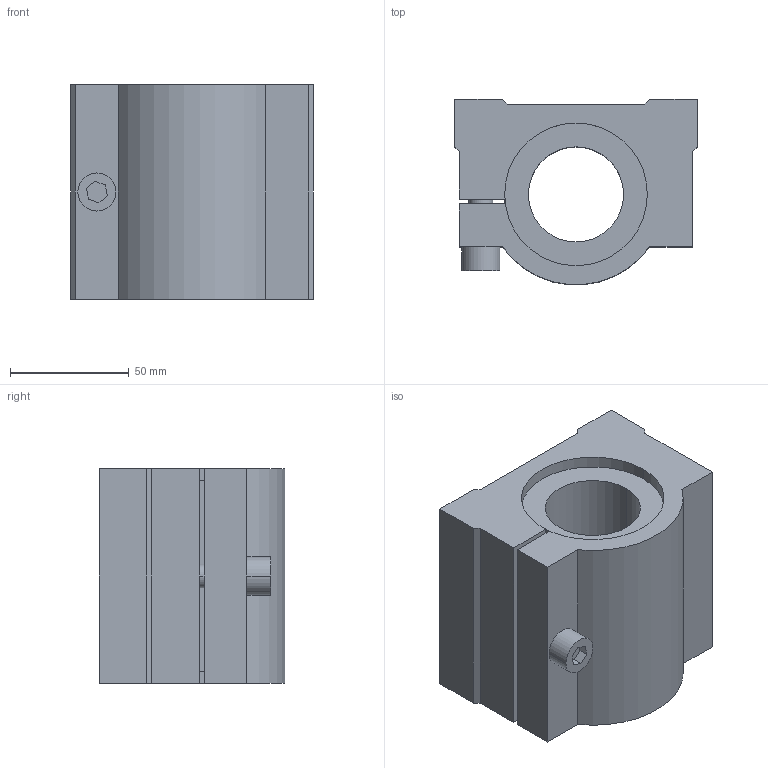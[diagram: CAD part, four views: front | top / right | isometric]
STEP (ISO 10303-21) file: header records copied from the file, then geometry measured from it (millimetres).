
FILE_DESCRIPTION((''),'2;1');
FILE_NAME('C:\Documents and Settings\ｿﾀﾀ蠑ｷ1\ｹﾙﾅﾁ ﾈｭｸ饅\ｺﾎﾇｰﾆﾄﾀﾏ\ﾁｦﾇｰ\SCJ__UU\SCJ40UU.stp','2005-06-22T17:51:00',('ｿﾀﾀ蠑ｷ1'),(''),'Autodesk Inventor 9','Autodesk Inventor 9','');
FILE_SCHEMA(('AUTOMOTIVE_DESIGN { 1 0 10303 214 1 1 1 1 }'));
Length unit declared in the file: millimetre
Products named in the file (1): SCJ__UU
Bounding box: 102 x 77.86 x 90 mm (x, y, z)
Volume: 474506.9 mm3; surface area: 58467.7 mm2
Topology: 1 solids, 1 shells, 56 faces, 142 edges, 88 vertices
Faces by surface type: plane 29, bspline 16, cylinder 11
Entity records: 1863 total; most frequent: CARTESIAN_POINT 551, ORIENTED_EDGE 268, DIRECTION 254, EDGE_CURVE 134, VECTOR 96, LINE 96, VERTEX_POINT 88, AXIS2_PLACEMENT_3D 79
